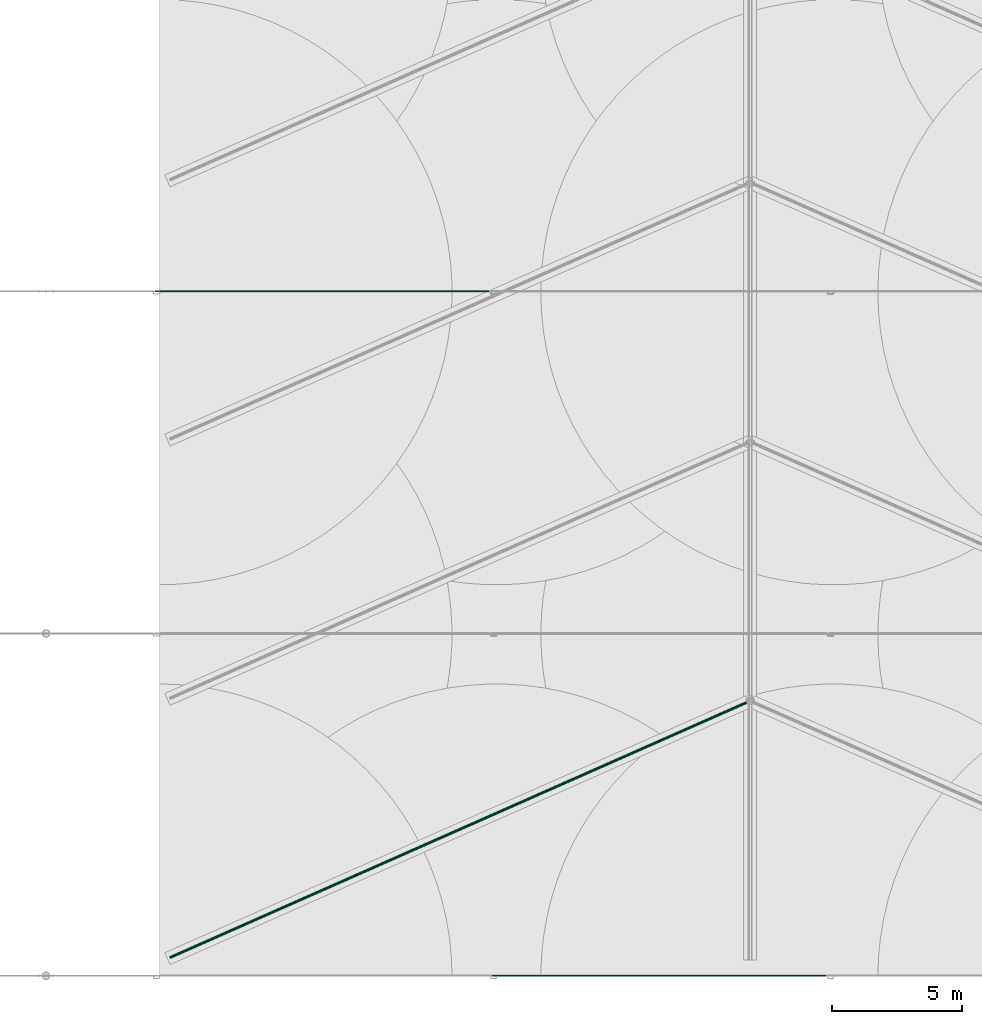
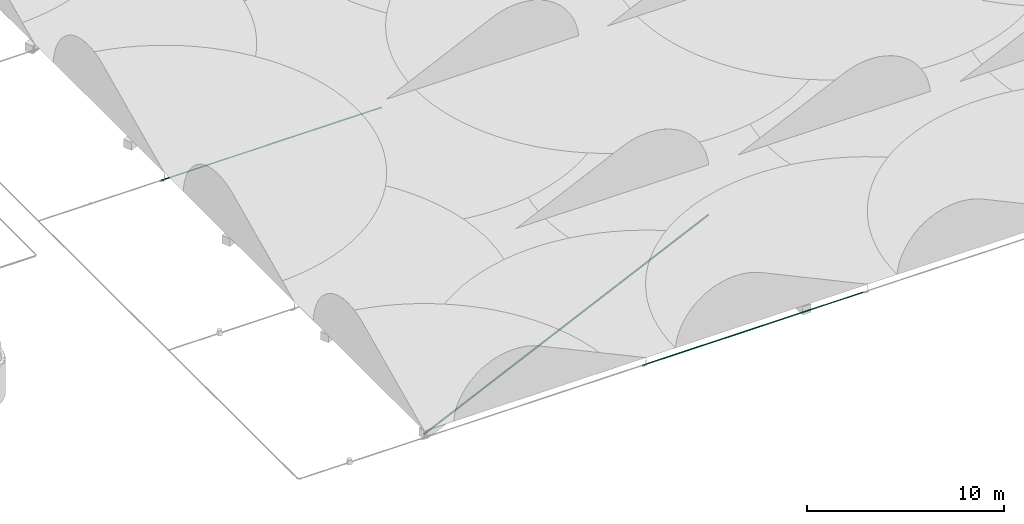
# One storey, part 8 of 166: 3 flow segments.
"""IFC2X3 building model written with IfcOpenShell, lengths in metres."""

from ifc_helpers import new_model, entity, si_unit, converted_unit, direction, frame, frame_2d, origin, place, context, subcontext, project, spatial, circle, extrude, type_object, element, save


model = new_model("IFC2X3")

# Units and contexts
model_context = context("Model", 3, precision=1e-05, world=origin(), true_north=direction((6.123233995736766e-17, 1.0)))
body_context = subcontext(model_context, "Body", "Model", "MODEL_VIEW")
ifc_project = project(units=[si_unit("LENGTHUNIT", "METRE"), converted_unit("PLANEANGLEUNIT", "DEGREE", entity("IfcPlaneAngleMeasure", 0.017453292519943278), si_unit("PLANEANGLEUNIT", "RADIAN"), dimensions=[0, 0, 0, 0, 0, 0, 0]), si_unit("AREAUNIT", "SQUARE_METRE")], contexts=[model_context])

# Site, building, storey
site_placement = place(None, origin())
site = spatial("IfcSite", under=ifc_project, at=site_placement, Name="Default", CompositionType="ELEMENT")
building_placement = place(site_placement, origin())
building = spatial("IfcBuilding", under=site, at=building_placement, Name="CASA DE ACOLHIDA PARA IDOSOS", CompositionType="ELEMENT")
storey_placement = place(building_placement, frame((0.0, 0.0, -1.7499999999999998)))
storey = spatial("IfcBuildingStorey", under=building, at=storey_placement, Name="IMPLANTAÇÃO DRENAGEM", CompositionType="ELEMENT", Elevation=-1.7499999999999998)

# Flow segments
pipe_segment_type_1 = type_object("IfcPipeSegmentType", Name="Tipos de tubos:PLUV_Tubo PEAD Corrugado", PredefinedType="NOTDEFINED")
flow_segment_1_placement = place(storey_placement, origin())
element("IfcFlowSegment", 1, at=flow_segment_1_placement, inside=storey, type_object=pipe_segment_type_1, Name="Tipos de tubos:PLUV_Tubo PEAD Corrugado", ObjectType="Tipos de tubos:PLUV_Tubo PEAD Corrugado", context=body_context, shape_type="SweptSolid", body=[
    extrude(circle(Radius=0.05, at=frame_2d((-7.617807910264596e-16, -4.399088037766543e-17), x_axis=(1.0, 0.0))), frame((-21.981366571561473, -6.145057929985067, -0.7947900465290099), z_axis=(-0.9144899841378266, -0.4044849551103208, 0.00999950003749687), x_axis=(0.4045051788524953, -0.914535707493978, 0.0)), (0.0, 0.0, 1.0), 24.48022857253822),
])
pipe_segment_type_2 = type_object("IfcPipeSegmentType", Name="Tipos de tubos:AF_Tubo Marrom Soldável", PredefinedType="NOTDEFINED")
flow_segment_2_placement = place(storey_placement, origin())
element("IfcFlowSegment", 2, at=flow_segment_2_placement, inside=storey, type_object=pipe_segment_type_2, Name="Tipos de tubos:AF_Tubo Marrom Soldável", ObjectType="Tipos de tubos:AF_Tubo Marrom Soldável", context=body_context, shape_type="SweptSolid", body=[
    extrude(circle(Radius=0.025, at=frame_2d((0.0, -2.707167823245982e-16), x_axis=(1.0, 0.0))), frame((-44.95834889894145, 9.654942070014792, -0.19999999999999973), z_axis=(1.0, 0.0, 0.0), x_axis=(0.0, -1.0, 0.0)), (0.0, 0.0, 1.0), 12.934799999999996),
])
flow_segment_3_placement = place(storey_placement, origin())
element("IfcFlowSegment", 3, at=flow_segment_3_placement, inside=storey, type_object=pipe_segment_type_2, Name="Tipos de tubos:AF_Tubo Marrom Soldável", ObjectType="Tipos de tubos:AF_Tubo Marrom Soldável", context=body_context, shape_type="SweptSolid", body=[
    extrude(circle(Radius=0.025, at=frame_2d((0.0, -2.707167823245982e-16), x_axis=(1.0, 0.0))), frame((-31.958348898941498, -16.745057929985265, -0.19999999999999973), z_axis=(1.0, 0.0, 0.0), x_axis=(0.0, -1.0, 0.0)), (0.0, 0.0, 1.0), 12.9348),
])

save(model, "model.ifc")
